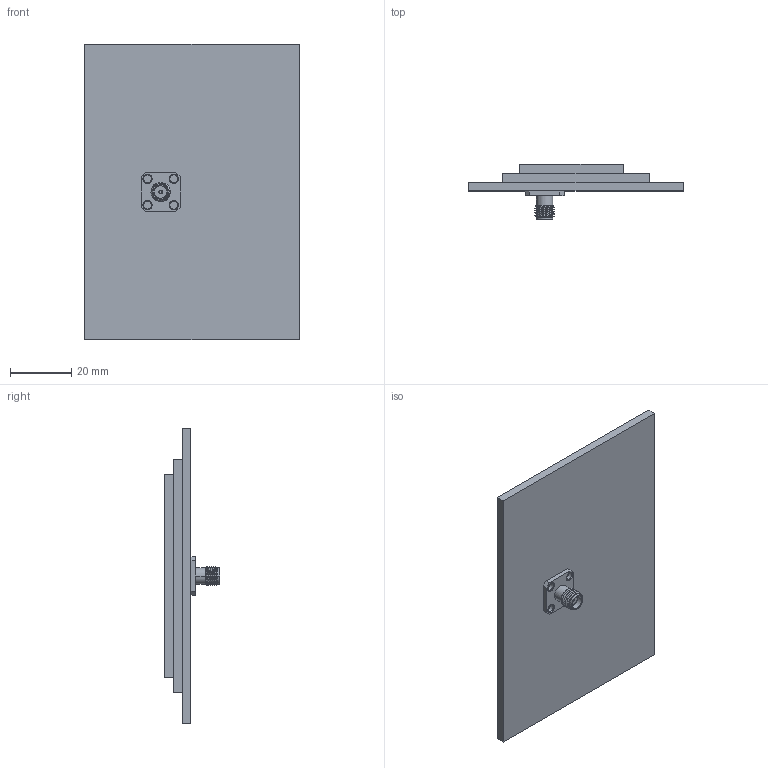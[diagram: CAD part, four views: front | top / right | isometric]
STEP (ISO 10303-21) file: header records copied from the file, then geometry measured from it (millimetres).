
FILE_DESCRIPTION (( 'STEP AP214' ), '1' );
FILE_NAME ('EXA SSA01 2024-Dec-06.STEP', '2024-12-06T21:25:44', ( '' ), ( '' ), 'SwSTEP 2.0', 'SolidWorks 2023', '' );
FILE_SCHEMA (( 'AUTOMOTIVE_DESIGN' ));
Length unit declared in the file: millimetre
Products named in the file (3): 32K421-200E3; EXA SSA01 2024-Dec-06; SSA01 Panels
Assembly tree (2 placements, depth 2):
  EXA SSA01 2024-Dec-06
    SSA01 Panels
    32K421-200E3
Bounding box: 70 x 18.25 x 96.6 mm (x, y, z)
Volume: 36765.8 mm3; surface area: 16550.5 mm2
Topology: 2 solids, 2 shells, 109 faces, 259 edges, 162 vertices
Faces by surface type: cylinder 55, plane 33, cone 14, torus 4, bspline 3
Full cylindrical faces by diameter (mm): 2.5 x2
Entity records: 4363 total; most frequent: CARTESIAN_POINT 1885, ORIENTED_EDGE 512, DIRECTION 483, EDGE_CURVE 256, AXIS2_PLACEMENT_3D 179, VERTEX_POINT 161, EDGE_LOOP 129, VECTOR 125
